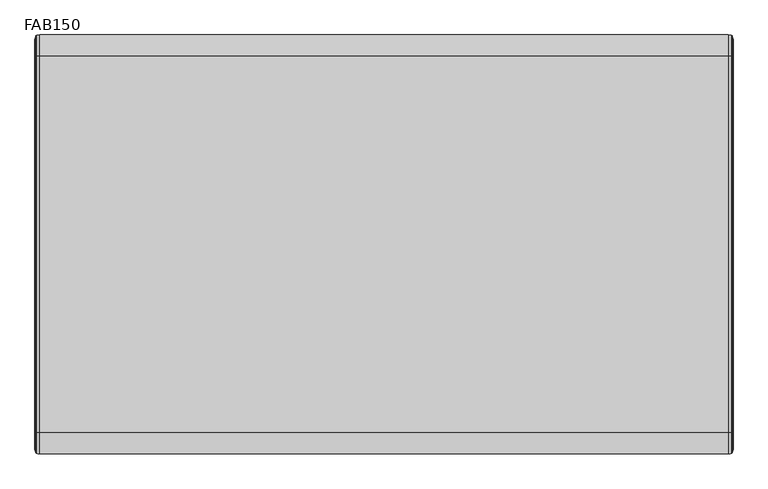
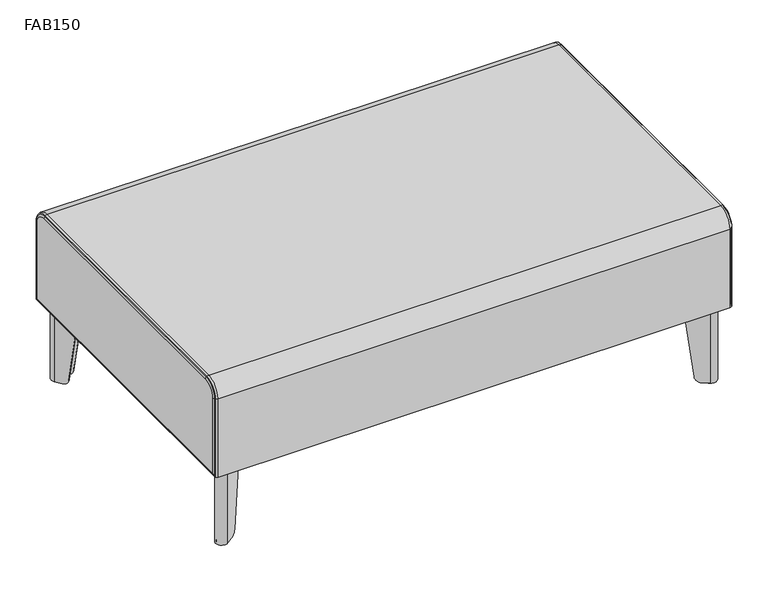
"""IFC4 building model written with IfcOpenShell, lengths in millimetres: furniture geometry, Stance_HC-Flora-Bench_Straight : FAB150."""

from ifc_helpers import new_model, si_unit, point, frame, frame_2d, origin, origin_with_axes, place, context, project, spatial, polyline, circle_curve, ellipse_curve, trimmed, segment, composite_curve, outline, extrude, source, transform, mapped, element, save
from ifc_brep_helpers import plane_surface, cylinder_surface, revolved_surface, advanced_brep


def fab150_d09243b9(model_context):
    return source(origin(), model_context, "Body", "SolidModel", [
        extrude(outline(composite_curve([segment(polyline([(1214.1692791, -32.5186459), (1227.4741789, -23.2024186)]), True, "CONTINUOUS"), segment(trimmed(circle_curve(frame_2d((1234.1246983, -32.7003078)), 11.5947965), [point((1227.4741789, -23.2024186))], [point((1243.6225874, -39.3508272))], False, "CARTESIAN"), True, "CONTINUOUS"), segment(polyline([(1243.6225874, -39.3508272), (1234.3063601, -52.6557269), (1214.1692791, -32.5186459)]), True, "CONTINUOUS")], self_intersect=False)), frame((0.0, 0.0, 3.175), z_axis=(0.0, 0.0, 1.0), x_axis=(1.0, 0.0, 0.0)), (0.0, 0.0, 1.0), 3.3792927),
        advanced_brep(
        [(1214.3314582, -86.7866368, 193.6877233), (1246.2555647, -41.1944649, 193.6877233), (1225.6305412, -20.5694413, 193.6877233), (1180.0383719, -52.4935459, 193.6877233), (1181.8820096, -55.1265233, 193.6877233), (1227.4741789, -23.2024186, 193.6877233), (1243.6225874, -39.3508272, 193.6877233), (1211.6984809, -84.9429991, 193.6877233), (1214.3314582, -86.7866368, 189.1419595), (1243.6225874, -39.3508272, 3.1876992), (1233.5018779, -53.8046422, 3.1876992), (1224.3247818, -66.9108427, 17.1280233), (1227.4741789, -23.2024186, 3.1876992), (1199.9141633, -42.5002243, 17.1280233), (1213.0203639, -33.3231282, 3.1876992), (1180.0383719, -52.4935459, 189.1419334), (1225.6305412, -20.5694413, 3.1876992), (1210.7124662, -31.0152305, 3.1876992), (1197.6062656, -40.1923266, 17.1280233), (1246.2555647, -41.1944649, 3.1876992), (1226.6326795, -69.2187405, 17.1280233), (1235.8097756, -56.1125399, 3.1876992)],
        [
            (0, 1),
            (1, 2, circle_curve(frame((1234.1246983, -32.7003078, 193.6877233), z_axis=(0.0, 0.0, 1.0), x_axis=(-1.0, 0.0, 0.0)), 14.8090724)),
            (2, 3),
            (3, 4),
            (4, 5),
            (5, 6, circle_curve(frame((1234.1246983, -32.7003078, 193.6877233), z_axis=(0.0, 0.0, -1.0), x_axis=(-1.0, 0.0, 0.0)), 11.5947965)),
            (6, 7),
            (7, 0),
            (7, 8),
            (8, 0),
            (6, 9),
            (9, 10),
            (10, 11, ellipse_curve(frame((1233.5018779, -53.8046422, 19.0626992), z_axis=(-0.8191509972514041, 0.5735779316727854, 0.0), x_axis=(-0.5735779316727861, -0.8191509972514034, 0.0)), 16.1198923, 15.875)),
            (11, 7),
            (5, 12),
            (12, 9, circle_curve(frame((1234.1246983, -32.7003078, 3.1876992), z_axis=(0.0, 0.0, -1.0), x_axis=(-1.0, 0.0, 0.0)), 11.5947965)),
            (4, 13),
            (13, 14, ellipse_curve(frame((1213.0203639, -33.3231282, 19.0626992), z_axis=(0.5735779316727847, -0.8191509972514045, 0.0), x_axis=(0.8191509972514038, 0.5735779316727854, 0.0)), 16.1198923, 15.875)),
            (14, 12),
            (3, 15),
            (15, 4),
            (2, 16),
            (16, 17),
            (17, 18, ellipse_curve(frame((1210.7124662, -31.0152305, 19.0626992), z_axis=(-0.5735779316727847, 0.8191509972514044, 0.0), x_axis=(0.8191509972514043, 0.573577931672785, 0.0)), 16.1198923, 15.875)),
            (18, 15),
            (1, 19),
            (19, 16, circle_curve(frame((1234.1246983, -32.7003078, 3.1876992), z_axis=(0.0, 0.0, 1.0), x_axis=(-1.0, 0.0, 0.0)), 14.8090724)),
            (8, 20),
            (20, 21, ellipse_curve(frame((1235.8097756, -56.1125399, 19.0626992), z_axis=(0.8191509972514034, -0.5735779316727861, 0.0), x_axis=(-0.5735779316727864, -0.8191509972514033, 0.0)), 16.1198923, 15.875)),
            (21, 19),
            (18, 13),
            (11, 20),
            (21, 10),
            (14, 17),
        ],
        [
            plane_surface(frame((1211.6984809, -84.9429991, 193.6877233), z_axis=(0.0, 0.0, 1.0000000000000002), x_axis=(-0.8191509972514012, 0.5735779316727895, 0.0))),
            plane_surface(frame((1214.3314582, -86.7866368, 193.6877233), z_axis=(-0.5735779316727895, -0.8191509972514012, 0.0), x_axis=(0.0, 0.0, -1.0))),
            plane_surface(frame((1211.6984809, -84.9429991, 193.6877233), z_axis=(-0.8191509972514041, 0.5735779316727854, 0.0), x_axis=(0.0, 0.0, -1.0))),
            revolved_surface(polyline([(1222.5299018, -32.7003078, 3.1876992), (1222.5299018, -32.7003078, 193.6877233)]), (1234.1246983, -32.7003078, 0.0), (0.0, 0.0, -1.0)),
            plane_surface(frame((1227.4741789, -23.2024186, 193.6877233), z_axis=(0.5735779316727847, -0.8191509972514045, 0.0), x_axis=(0.0, 0.0, -1.0))),
            plane_surface(frame((1181.8820096, -55.1265233, 193.6877233), z_axis=(-0.8191509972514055, -0.5735779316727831, 0.0), x_axis=(0.0, 0.0, -1.0))),
            plane_surface(frame((1180.0383719, -52.4935459, 193.6877233), z_axis=(-0.5735779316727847, 0.8191509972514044, 0.0), x_axis=(0.0, 0.0, -1.0))),
            cylinder_surface(frame((1234.1246983, -32.7003078, 0.0), z_axis=(0.0, 0.0, 1.0), x_axis=(-1.0, 0.0, 0.0)), 14.8090724),
            plane_surface(frame((1246.2555647, -41.1944649, 193.6877233), z_axis=(0.8191509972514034, -0.5735779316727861, 0.0), x_axis=(0.0, 0.0, -1.0))),
            plane_surface(frame((1191.7224625, -34.3085234, 17.1280233), z_axis=(-0.7018361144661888, -0.7018361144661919, -0.12186934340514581), x_axis=(0.7071067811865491, -0.707106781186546, 0.0))),
            plane_surface(frame((1224.212818, -1.818168, 3.1876992), z_axis=(0.0, 0.0, -1.0), x_axis=(0.707106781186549, -0.707106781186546, 0.0))),
            cylinder_surface(frame((1243.6497538, -63.9525182, 19.0626992), z_axis=(0.7071067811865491, -0.707106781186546, 0.0), x_axis=(-0.707106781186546, -0.7071067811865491, 0.0)), 15.875),
        ],
        [
            (0, [[1, 2, 3, 4, 5, 6, 7, 8]]),
            (1, [[9, 10, -8]]),
            (2, [[11, 12, 13, 14, -7]]),
            (3, [[15, 16, -11, -6]]),
            (4, [[17, 18, 19, -15, -5]]),
            (5, [[20, 21, -4]]),
            (6, [[22, 23, 24, 25, -20, -3]]),
            (7, [[26, 27, -22, -2]]),
            (8, [[-10, 28, 29, 30, -26, -1]]),
            (9, [[-17, -21, -25, 31]]),
            (9, [[-28, -9, -14, 32]]),
            (10, [[-23, -27, -30, 33, -12, -16, -19, 34]]),
            (11, [[-13, -33, -29, -32]]),
            (11, [[-24, -34, -18, -31]]),
        ],
    ),
        extrude(outline(composite_curve([segment(trimmed(circle_curve(frame_2d((1232.0913541, -34.7252749)), 11.1125), [point((1243.2038541, -34.7252749))], [point((1220.9788541, -34.7252749))], False, "CARTESIAN"), True, "CONTINUOUS"), segment(trimmed(circle_curve(frame_2d((1232.0913541, -34.7252749)), 11.1125), [point((1220.9788541, -34.7252749))], [point((1243.2038541, -34.7252749))], False, "CARTESIAN"), True, "CONTINUOUS")], self_intersect=False)), origin_with_axes(), (0.0, 0.0, 1.0), 3.175),
        extrude(outline(composite_curve([segment(trimmed(circle_curve(frame_2d((1235.4438064, -31.3811988)), 15.8749964), [point((1234.3364228, -15.5448732))], [point((1251.2801321, -32.4885822))], False, "CARTESIAN"), True, "CONTINUOUS"), segment(polyline([(1251.2801321, -32.4885822), (1244.2831602, -132.5499778), (1214.4327865, -162.4003462), (1130.4896864, -136.3353271), (1104.4246518, -52.3922188), (1134.2750239, -22.5418467), (1234.3364228, -15.5448732)]), True, "CONTINUOUS")], self_intersect=False)), frame((0.0, 0.0, 193.6877233), z_axis=(0.0, 0.0, 1.0), x_axis=(1.0, 0.0, 0.0)), (0.0, 0.0, 1.0), 4.7751809),
        extrude(outline(composite_curve([segment(polyline([(1214.1692791, -729.4814086), (1234.3063601, -709.3443276), (1243.6225874, -722.6492273)]), True, "CONTINUOUS"), segment(trimmed(circle_curve(frame_2d((1234.1246983, -729.2997467)), 11.5947965), [point((1243.6225874, -722.6492273))], [point((1227.4741789, -738.7976359))], False, "CARTESIAN"), True, "CONTINUOUS"), segment(polyline([(1227.4741789, -738.7976359), (1214.1692791, -729.4814086)]), True, "CONTINUOUS")], self_intersect=False)), frame((0.0, 0.0, 3.175), z_axis=(0.0, 0.0, 1.0), x_axis=(1.0, 0.0, 0.0)), (0.0, 0.0, 1.0), 3.3792927),
        advanced_brep(
        [(1214.3314582, -675.2134177, 193.6877233), (1211.6984809, -677.0570554, 193.6877233), (1243.6225874, -722.6492273, 193.6877233), (1227.4741789, -738.7976359, 193.6877233), (1181.8820096, -706.8735312, 193.6877233), (1180.0383719, -709.5065086, 193.6877233), (1225.6305412, -741.4306132, 193.6877233), (1246.2555647, -720.8055896, 193.6877233), (1214.3314582, -675.2134177, 189.1419595), (1224.3247818, -695.0892118, 17.1280233), (1233.5018779, -708.1954123, 3.1876992), (1243.6225874, -722.6492273, 3.1876992), (1227.4741789, -738.7976359, 3.1876992), (1213.0203639, -728.6769263, 3.1876992), (1199.9141633, -719.4998302, 17.1280233), (1180.0383719, -709.5065086, 189.1419334), (1197.6062656, -721.8077279, 17.1280233), (1210.7124662, -730.984824, 3.1876992), (1225.6305412, -741.4306132, 3.1876992), (1246.2555647, -720.8055896, 3.1876992), (1235.8097756, -705.8875146, 3.1876992), (1226.6326795, -692.781314, 17.1280233)],
        [
            (0, 1),
            (1, 2),
            (2, 3, circle_curve(frame((1234.1246983, -729.2997467, 193.6877233), z_axis=(0.0, 0.0, -1.0), x_axis=(-1.0, 0.0, 0.0)), 11.5947965)),
            (3, 4),
            (4, 5),
            (5, 6),
            (6, 7, circle_curve(frame((1234.1246983, -729.2997467, 193.6877233), z_axis=(0.0, 0.0, 1.0), x_axis=(-1.0, 0.0, 0.0)), 14.8090724)),
            (7, 0),
            (0, 8),
            (8, 1),
            (1, 9),
            (9, 10, ellipse_curve(frame((1233.5018779, -708.1954123, 19.0626992), z_axis=(-0.8191509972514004, -0.5735779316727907, 0.0), x_axis=(-0.5735779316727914, 0.8191509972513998, 0.0)), 16.1198923, 15.875)),
            (10, 11),
            (11, 2),
            (11, 12, circle_curve(frame((1234.1246983, -729.2997467, 3.1876992), z_axis=(0.0, 0.0, -1.0), x_axis=(-1.0, 0.0, 0.0)), 11.5947965)),
            (12, 3),
            (12, 13),
            (13, 14, ellipse_curve(frame((1213.0203639, -728.6769263, 19.0626992), z_axis=(0.5735779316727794, 0.8191509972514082, 0.0), x_axis=(0.8191509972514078, -0.5735779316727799, 0.0)), 16.1198923, 15.875)),
            (14, 4),
            (4, 15),
            (15, 5),
            (15, 16),
            (16, 17, ellipse_curve(frame((1210.7124662, -730.984824, 19.0626992), z_axis=(-0.5735779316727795, -0.8191509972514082, 0.0), x_axis=(0.8191509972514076, -0.5735779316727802, 0.0)), 16.1198923, 15.875)),
            (17, 18),
            (18, 6),
            (18, 19, circle_curve(frame((1234.1246983, -729.2997467, 3.1876992), z_axis=(0.0, 0.0, 1.0), x_axis=(-1.0, 0.0, 0.0)), 14.8090724)),
            (19, 7),
            (19, 20),
            (20, 21, ellipse_curve(frame((1235.8097756, -705.8875146, 19.0626992), z_axis=(0.8191509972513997, 0.5735779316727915, 0.0), x_axis=(-0.573577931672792, 0.8191509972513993, 0.0)), 16.1198923, 15.875)),
            (21, 8),
            (14, 16),
            (21, 9),
            (17, 13),
            (10, 20),
        ],
        [
            plane_surface(frame((1211.6984809, -677.0570554, 193.6877233), z_axis=(0.0, 0.0, 0.9999999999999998), x_axis=(-0.8191509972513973, -0.5735779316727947, 0.0))),
            plane_surface(frame((1214.3314582, -675.2134177, 193.6877233), z_axis=(-0.5735779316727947, 0.8191509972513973, 0.0), x_axis=(0.0, 0.0, -1.0))),
            plane_surface(frame((1211.6984809, -677.0570554, 193.6877233), z_axis=(-0.8191509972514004, -0.5735779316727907, 0.0), x_axis=(0.0, 0.0, -1.0))),
            revolved_surface(polyline([(1222.5299018, -729.2997467, 3.1876992), (1222.5299018, -729.2997467, 193.6877233)]), (1234.1246983, -729.2997467, 0.0), (0.0, 0.0, -1.0)),
            plane_surface(frame((1227.4741789, -738.7976359, 193.6877233), z_axis=(0.5735779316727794, 0.8191509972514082, 0.0), x_axis=(0.0, 0.0, -1.0))),
            plane_surface(frame((1181.8820096, -706.8735312, 193.6877233), z_axis=(-0.8191509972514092, 0.5735779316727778, 0.0), x_axis=(0.0, 0.0, -1.0))),
            plane_surface(frame((1180.0383719, -709.5065086, 193.6877233), z_axis=(-0.5735779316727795, -0.8191509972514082, 0.0), x_axis=(0.0, 0.0, -1.0))),
            cylinder_surface(frame((1234.1246983, -729.2997467, 0.0), z_axis=(0.0, 0.0, 1.0), x_axis=(-1.0, 0.0, 0.0)), 14.8090724),
            plane_surface(frame((1246.2555647, -720.8055896, 193.6877233), z_axis=(0.8191509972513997, 0.5735779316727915, 0.0), x_axis=(0.0, 0.0, -1.0))),
            plane_surface(frame((1191.7224625, -727.6915311, 17.1280233), z_axis=(-0.7018361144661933, 0.7018361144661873, -0.12186934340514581), x_axis=(0.7071067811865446, 0.7071067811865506, 0.0))),
            plane_surface(frame((1224.212818, -760.1818865, 3.1876992), z_axis=(0.0, 0.0, -1.0), x_axis=(0.7071067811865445, 0.7071067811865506, 0.0))),
            cylinder_surface(frame((1243.6497538, -698.0475363, 19.0626992), z_axis=(0.7071067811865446, 0.7071067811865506, 0.0), x_axis=(-0.7071067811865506, 0.7071067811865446, 0.0)), 15.875),
        ],
        [
            (0, [[1, 2, 3, 4, 5, 6, 7, 8]]),
            (1, [[-1, 9, 10]]),
            (2, [[-2, 11, 12, 13, 14]]),
            (3, [[-3, -14, 15, 16]]),
            (4, [[-4, -16, 17, 18, 19]]),
            (5, [[-5, 20, 21]]),
            (6, [[-6, -21, 22, 23, 24, 25]]),
            (7, [[-7, -25, 26, 27]]),
            (8, [[-8, -27, 28, 29, 30, -9]]),
            (9, [[31, -22, -20, -19]]),
            (9, [[32, -11, -10, -30]]),
            (10, [[33, -17, -15, -13, 34, -28, -26, -24]]),
            (11, [[-31, -18, -33, -23]]),
            (11, [[-32, -29, -34, -12]]),
        ],
    ),
        extrude(outline(composite_curve([segment(trimmed(circle_curve(frame_2d((1232.0913541, -727.2747796)), 11.1125), [point((1243.2038541, -727.2747796))], [point((1220.9788541, -727.2747796))], False, "CARTESIAN"), True, "CONTINUOUS"), segment(trimmed(circle_curve(frame_2d((1232.0913541, -727.2747796)), 11.1125), [point((1220.9788541, -727.2747796))], [point((1243.2038541, -727.2747796))], False, "CARTESIAN"), True, "CONTINUOUS")], self_intersect=False)), origin_with_axes(), (0.0, 0.0, 1.0), 3.175),
        extrude(outline(composite_curve([segment(polyline([(1234.3364228, -746.4551813), (1134.2750239, -739.4582078), (1104.4246518, -709.6078357), (1130.4896864, -625.6647274), (1214.4327865, -599.5997083), (1244.2831602, -629.4500767), (1251.2801321, -729.5114723)]), True, "CONTINUOUS"), segment(trimmed(circle_curve(frame_2d((1235.4438064, -730.6188557)), 15.8749964), [point((1251.2801321, -729.5114723))], [point((1234.3364228, -746.4551813))], False, "CARTESIAN"), True, "CONTINUOUS")], self_intersect=False)), frame((0.0, 0.0, 193.6877233), z_axis=(0.0, 0.0, 1.0), x_axis=(1.0, 0.0, 0.0)), (0.0, 0.0, 1.0), 4.7751809),
        extrude(outline(composite_curve([segment(polyline([(55.8307262, -729.4814086), (42.5258264, -738.7976359)]), True, "CONTINUOUS"), segment(trimmed(circle_curve(frame_2d((35.875307, -729.2997467)), 11.5947965), [point((42.5258264, -738.7976359))], [point((26.3774179, -722.6492273))], False, "CARTESIAN"), True, "CONTINUOUS"), segment(polyline([(26.3774179, -722.6492273), (35.6936452, -709.3443276), (55.8307262, -729.4814086)]), True, "CONTINUOUS")], self_intersect=False)), frame((0.0, 0.0, 3.175), z_axis=(0.0, 0.0, 1.0), x_axis=(1.0, 0.0, 0.0)), (0.0, 0.0, 1.0), 3.3792927),
        advanced_brep(
        [(55.6685471, -675.2134177, 193.6877233), (23.7444406, -720.8055896, 193.6877233), (44.3694641, -741.4306132, 193.6877233), (89.9616334, -709.5065086, 193.6877233), (88.1179957, -706.8735312, 193.6877233), (42.5258264, -738.7976359, 193.6877233), (26.3774179, -722.6492273, 193.6877233), (58.3015244, -677.0570554, 193.6877233), (55.6685471, -675.2134177, 189.1419595), (26.3774179, -722.6492273, 3.1876992), (36.4981274, -708.1954123, 3.1876992), (45.6752235, -695.0892118, 17.1280233), (42.5258264, -738.7976359, 3.1876992), (70.085842, -719.4998302, 17.1280233), (56.9796414, -728.6769263, 3.1876992), (89.9616334, -709.5065086, 189.1419334), (44.3694641, -741.4306132, 3.1876992), (59.2875391, -730.984824, 3.1876992), (72.3937397, -721.8077279, 17.1280233), (23.7444406, -720.8055896, 3.1876992), (43.3673258, -692.781314, 17.1280233), (34.1902297, -705.8875146, 3.1876992)],
        [
            (0, 1),
            (1, 2, circle_curve(frame((35.875307, -729.2997467, 193.6877233), z_axis=(0.0, 0.0, 1.0), x_axis=(1.0, 0.0, 0.0)), 14.8090724)),
            (2, 3),
            (3, 4),
            (4, 5),
            (5, 6, circle_curve(frame((35.875307, -729.2997467, 193.6877233), z_axis=(0.0, 0.0, -1.0), x_axis=(1.0, 0.0, 0.0)), 11.5947965)),
            (6, 7),
            (7, 0),
            (7, 8),
            (8, 0),
            (6, 9),
            (9, 10),
            (10, 11, ellipse_curve(frame((36.4981274, -708.1954123, 19.0626992), z_axis=(0.8191509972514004, -0.5735779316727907, 0.0), x_axis=(0.5735779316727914, 0.8191509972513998, 0.0)), 16.1198923, 15.875)),
            (11, 7),
            (5, 12),
            (12, 9, circle_curve(frame((35.875307, -729.2997467, 3.1876992), z_axis=(0.0, 0.0, -1.0), x_axis=(1.0, 0.0, 0.0)), 11.5947965)),
            (4, 13),
            (13, 14, ellipse_curve(frame((56.9796414, -728.6769263, 19.0626992), z_axis=(-0.5735779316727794, 0.8191509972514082, 0.0), x_axis=(-0.8191509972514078, -0.5735779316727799, 0.0)), 16.1198923, 15.875)),
            (14, 12),
            (3, 15),
            (15, 4),
            (2, 16),
            (16, 17),
            (17, 18, ellipse_curve(frame((59.2875391, -730.984824, 19.0626992), z_axis=(0.5735779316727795, -0.8191509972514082, 0.0), x_axis=(-0.8191509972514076, -0.5735779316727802, 0.0)), 16.1198923, 15.875)),
            (18, 15),
            (1, 19),
            (19, 16, circle_curve(frame((35.875307, -729.2997467, 3.1876992), z_axis=(0.0, 0.0, 1.0), x_axis=(1.0, 0.0, 0.0)), 14.8090724)),
            (8, 20),
            (20, 21, ellipse_curve(frame((34.1902297, -705.8875146, 19.0626992), z_axis=(-0.8191509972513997, 0.5735779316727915, 0.0), x_axis=(0.573577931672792, 0.8191509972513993, 0.0)), 16.1198923, 15.875)),
            (21, 19),
            (18, 13),
            (11, 20),
            (21, 10),
            (14, 17),
        ],
        [
            plane_surface(frame((58.3015244, -677.0570554, 193.6877233), z_axis=(0.0, 0.0, 0.9999999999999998), x_axis=(0.8191509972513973, -0.5735779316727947, 0.0))),
            plane_surface(frame((55.6685471, -675.2134177, 193.6877233), z_axis=(0.5735779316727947, 0.8191509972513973, 0.0), x_axis=(0.0, 0.0, -1.0))),
            plane_surface(frame((58.3015244, -677.0570554, 193.6877233), z_axis=(0.8191509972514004, -0.5735779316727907, 0.0), x_axis=(0.0, 0.0, -1.0))),
            revolved_surface(polyline([(47.4701035, -729.2997467, 3.1876992), (47.4701035, -729.2997467, 193.6877233)]), (35.875307, -729.2997467, 0.0), (0.0, 0.0, -1.0)),
            plane_surface(frame((42.5258264, -738.7976359, 193.6877233), z_axis=(-0.5735779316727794, 0.8191509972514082, 0.0), x_axis=(0.0, 0.0, -1.0))),
            plane_surface(frame((88.1179957, -706.8735312, 193.6877233), z_axis=(0.8191509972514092, 0.5735779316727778, 0.0), x_axis=(0.0, 0.0, -1.0))),
            plane_surface(frame((89.9616334, -709.5065086, 193.6877233), z_axis=(0.5735779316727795, -0.8191509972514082, 0.0), x_axis=(0.0, 0.0, -1.0))),
            cylinder_surface(frame((35.875307, -729.2997467, 0.0), z_axis=(0.0, 0.0, 1.0), x_axis=(1.0, 0.0, 0.0)), 14.8090724),
            plane_surface(frame((23.7444406, -720.8055896, 193.6877233), z_axis=(-0.8191509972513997, 0.5735779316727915, 0.0), x_axis=(0.0, 0.0, -1.0))),
            plane_surface(frame((78.2775428, -727.6915311, 17.1280233), z_axis=(0.7018361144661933, 0.7018361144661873, -0.12186934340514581), x_axis=(-0.7071067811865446, 0.7071067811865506, 0.0))),
            plane_surface(frame((45.7871873, -760.1818865, 3.1876992), z_axis=(0.0, 0.0, -1.0), x_axis=(-0.7071067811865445, 0.7071067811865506, 0.0))),
            cylinder_surface(frame((26.3502515, -698.0475363, 19.0626992), z_axis=(-0.7071067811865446, 0.7071067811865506, 0.0), x_axis=(0.7071067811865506, 0.7071067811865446, 0.0)), 15.875),
        ],
        [
            (0, [[1, 2, 3, 4, 5, 6, 7, 8]]),
            (1, [[9, 10, -8]]),
            (2, [[11, 12, 13, 14, -7]]),
            (3, [[15, 16, -11, -6]]),
            (4, [[17, 18, 19, -15, -5]]),
            (5, [[20, 21, -4]]),
            (6, [[22, 23, 24, 25, -20, -3]]),
            (7, [[26, 27, -22, -2]]),
            (8, [[-10, 28, 29, 30, -26, -1]]),
            (9, [[-17, -21, -25, 31]]),
            (9, [[-28, -9, -14, 32]]),
            (10, [[-23, -27, -30, 33, -12, -16, -19, 34]]),
            (11, [[-13, -33, -29, -32]]),
            (11, [[-24, -34, -18, -31]]),
        ],
    ),
        extrude(outline(composite_curve([segment(trimmed(circle_curve(frame_2d((37.9086512, -727.2747796)), 11.1125), [point((26.7961512, -727.2747796))], [point((49.0211512, -727.2747796))], False, "CARTESIAN"), True, "CONTINUOUS"), segment(trimmed(circle_curve(frame_2d((37.9086512, -727.2747796)), 11.1125), [point((49.0211512, -727.2747796))], [point((26.7961512, -727.2747796))], False, "CARTESIAN"), True, "CONTINUOUS")], self_intersect=False)), origin_with_axes(), (0.0, 0.0, 1.0), 3.175),
        extrude(outline(composite_curve([segment(trimmed(circle_curve(frame_2d((34.5561989, -730.6188557)), 15.8749964), [point((35.6635825, -746.4551813))], [point((18.7198732, -729.5114723))], False, "CARTESIAN"), True, "CONTINUOUS"), segment(polyline([(18.7198732, -729.5114723), (25.7168451, -629.4500767), (55.5672188, -599.5997083), (139.5103189, -625.6647274), (165.5753535, -709.6078357), (135.7249814, -739.4582078), (35.6635825, -746.4551813)]), True, "CONTINUOUS")], self_intersect=False)), frame((0.0, 0.0, 193.6877233), z_axis=(0.0, 0.0, 1.0), x_axis=(1.0, 0.0, 0.0)), (0.0, 0.0, 1.0), 4.7751809),
        extrude(outline(composite_curve([segment(polyline([(55.8307262, -32.5186459), (35.6936452, -52.6557269), (26.3774179, -39.3508272)]), True, "CONTINUOUS"), segment(trimmed(circle_curve(frame_2d((35.875307, -32.7003078)), 11.5947965), [point((26.3774179, -39.3508272))], [point((42.5258264, -23.2024186))], False, "CARTESIAN"), True, "CONTINUOUS"), segment(polyline([(42.5258264, -23.2024186), (55.8307262, -32.5186459)]), True, "CONTINUOUS")], self_intersect=False)), frame((0.0, 0.0, 3.175), z_axis=(0.0, 0.0, 1.0), x_axis=(1.0, 0.0, 0.0)), (0.0, 0.0, 1.0), 3.3792927),
        advanced_brep(
        [(55.6685471, -86.7866368, 193.6877233), (58.3015244, -84.9429991, 193.6877233), (26.3774179, -39.3508272, 193.6877233), (42.5258264, -23.2024186, 193.6877233), (88.1179957, -55.1265233, 193.6877233), (89.9616334, -52.4935459, 193.6877233), (44.3694641, -20.5694413, 193.6877233), (23.7444406, -41.1944649, 193.6877233), (55.6685471, -86.7866368, 189.1419595), (45.6752235, -66.9108427, 17.1280233), (36.4981274, -53.8046422, 3.1876992), (26.3774179, -39.3508272, 3.1876992), (42.5258264, -23.2024186, 3.1876992), (56.9796414, -33.3231282, 3.1876992), (70.085842, -42.5002243, 17.1280233), (89.9616334, -52.4935459, 189.1419334), (72.3937397, -40.1923266, 17.1280233), (59.2875391, -31.0152305, 3.1876992), (44.3694641, -20.5694413, 3.1876992), (23.7444406, -41.1944649, 3.1876992), (34.1902297, -56.1125399, 3.1876992), (43.3673258, -69.2187405, 17.1280233)],
        [
            (0, 1),
            (1, 2),
            (2, 3, circle_curve(frame((35.875307, -32.7003078, 193.6877233), z_axis=(0.0, 0.0, -1.0), x_axis=(1.0, 0.0, 0.0)), 11.5947965)),
            (3, 4),
            (4, 5),
            (5, 6),
            (6, 7, circle_curve(frame((35.875307, -32.7003078, 193.6877233), z_axis=(0.0, 0.0, 1.0), x_axis=(1.0, 0.0, 0.0)), 14.8090724)),
            (7, 0),
            (0, 8),
            (8, 1),
            (1, 9),
            (9, 10, ellipse_curve(frame((36.4981274, -53.8046422, 19.0626992), z_axis=(0.8191509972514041, 0.5735779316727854, 0.0), x_axis=(0.5735779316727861, -0.8191509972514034, 0.0)), 16.1198923, 15.875)),
            (10, 11),
            (11, 2),
            (11, 12, circle_curve(frame((35.875307, -32.7003078, 3.1876992), z_axis=(0.0, 0.0, -1.0), x_axis=(1.0, 0.0, 0.0)), 11.5947965)),
            (12, 3),
            (12, 13),
            (13, 14, ellipse_curve(frame((56.9796414, -33.3231282, 19.0626992), z_axis=(-0.5735779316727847, -0.8191509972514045, 0.0), x_axis=(-0.8191509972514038, 0.5735779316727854, 0.0)), 16.1198923, 15.875)),
            (14, 4),
            (4, 15),
            (15, 5),
            (15, 16),
            (16, 17, ellipse_curve(frame((59.2875391, -31.0152305, 19.0626992), z_axis=(0.5735779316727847, 0.8191509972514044, 0.0), x_axis=(-0.8191509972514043, 0.573577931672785, 0.0)), 16.1198923, 15.875)),
            (17, 18),
            (18, 6),
            (18, 19, circle_curve(frame((35.875307, -32.7003078, 3.1876992), z_axis=(0.0, 0.0, 1.0), x_axis=(1.0, 0.0, 0.0)), 14.8090724)),
            (19, 7),
            (19, 20),
            (20, 21, ellipse_curve(frame((34.1902297, -56.1125399, 19.0626992), z_axis=(-0.8191509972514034, -0.5735779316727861, 0.0), x_axis=(0.5735779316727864, -0.8191509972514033, 0.0)), 16.1198923, 15.875)),
            (21, 8),
            (14, 16),
            (21, 9),
            (17, 13),
            (10, 20),
        ],
        [
            plane_surface(frame((58.3015244, -84.9429991, 193.6877233), z_axis=(0.0, 0.0, 1.0000000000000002), x_axis=(0.8191509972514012, 0.5735779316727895, 0.0))),
            plane_surface(frame((55.6685471, -86.7866368, 193.6877233), z_axis=(0.5735779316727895, -0.8191509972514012, 0.0), x_axis=(0.0, 0.0, -1.0))),
            plane_surface(frame((58.3015244, -84.9429991, 193.6877233), z_axis=(0.8191509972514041, 0.5735779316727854, 0.0), x_axis=(0.0, 0.0, -1.0))),
            revolved_surface(polyline([(47.4701035, -32.7003078, 3.1876992), (47.4701035, -32.7003078, 193.6877233)]), (35.875307, -32.7003078, 0.0), (0.0, 0.0, -1.0)),
            plane_surface(frame((42.5258264, -23.2024186, 193.6877233), z_axis=(-0.5735779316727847, -0.8191509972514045, 0.0), x_axis=(0.0, 0.0, -1.0))),
            plane_surface(frame((88.1179957, -55.1265233, 193.6877233), z_axis=(0.8191509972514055, -0.5735779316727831, 0.0), x_axis=(0.0, 0.0, -1.0))),
            plane_surface(frame((89.9616334, -52.4935459, 193.6877233), z_axis=(0.5735779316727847, 0.8191509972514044, 0.0), x_axis=(0.0, 0.0, -1.0))),
            cylinder_surface(frame((35.875307, -32.7003078, 0.0), z_axis=(0.0, 0.0, 1.0), x_axis=(1.0, 0.0, 0.0)), 14.8090724),
            plane_surface(frame((23.7444406, -41.1944649, 193.6877233), z_axis=(-0.8191509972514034, -0.5735779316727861, 0.0), x_axis=(0.0, 0.0, -1.0))),
            plane_surface(frame((78.2775428, -34.3085234, 17.1280233), z_axis=(0.7018361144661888, -0.7018361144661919, -0.12186934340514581), x_axis=(-0.7071067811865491, -0.707106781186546, 0.0))),
            plane_surface(frame((45.7871873, -1.818168, 3.1876992), z_axis=(0.0, 0.0, -1.0), x_axis=(-0.707106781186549, -0.707106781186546, 0.0))),
            cylinder_surface(frame((26.3502515, -63.9525182, 19.0626992), z_axis=(-0.7071067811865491, -0.707106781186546, 0.0), x_axis=(0.707106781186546, -0.7071067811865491, 0.0)), 15.875),
        ],
        [
            (0, [[1, 2, 3, 4, 5, 6, 7, 8]]),
            (1, [[-1, 9, 10]]),
            (2, [[-2, 11, 12, 13, 14]]),
            (3, [[-3, -14, 15, 16]]),
            (4, [[-4, -16, 17, 18, 19]]),
            (5, [[-5, 20, 21]]),
            (6, [[-6, -21, 22, 23, 24, 25]]),
            (7, [[-7, -25, 26, 27]]),
            (8, [[-8, -27, 28, 29, 30, -9]]),
            (9, [[31, -22, -20, -19]]),
            (9, [[32, -11, -10, -30]]),
            (10, [[33, -17, -15, -13, 34, -28, -26, -24]]),
            (11, [[-31, -18, -33, -23]]),
            (11, [[-32, -29, -34, -12]]),
        ],
    ),
        extrude(outline(composite_curve([segment(trimmed(circle_curve(frame_2d((37.9086512, -34.7252749)), 11.1125), [point((26.7961512, -34.7252749))], [point((49.0211512, -34.7252749))], False, "CARTESIAN"), True, "CONTINUOUS"), segment(trimmed(circle_curve(frame_2d((37.9086512, -34.7252749)), 11.1125), [point((49.0211512, -34.7252749))], [point((26.7961512, -34.7252749))], False, "CARTESIAN"), True, "CONTINUOUS")], self_intersect=False)), origin_with_axes(), (0.0, 0.0, 1.0), 3.175),
        extrude(outline(composite_curve([segment(polyline([(35.6635825, -15.5448732), (135.7249814, -22.5418467), (165.5753535, -52.3922188), (139.5103189, -136.3353271), (55.5672188, -162.4003462), (25.7168451, -132.5499778), (18.7198732, -32.4885822)]), True, "CONTINUOUS"), segment(trimmed(circle_curve(frame_2d((34.5561989, -31.3811988)), 15.8749964), [point((18.7198732, -32.4885822))], [point((35.6635825, -15.5448732))], False, "CARTESIAN"), True, "CONTINUOUS")], self_intersect=False)), frame((0.0, 0.0, 193.6877233), z_axis=(0.0, 0.0, 1.0), x_axis=(1.0, 0.0, 0.0)), (0.0, 0.0, 1.0), 4.7751809),
        advanced_brep(
        [(1270.0, -723.9, 431.00625), (1270.0, -753.26875, 401.6375), (1270.0, -753.26875, 207.1687439), (1270.0, -8.73125, 207.1687439), (1270.0, -8.73125, 401.6375), (1270.0, -38.1, 431.00625), (0.0, -753.26875, 401.6375), (0.0, -723.9, 431.00625), (0.0, -38.1, 431.00625), (0.0, -8.73125, 401.6375), (0.0, -8.73125, 207.1687439), (0.0, -753.26875, 207.1687439), (1261.5158065, -762.0, 401.6375), (1261.5158065, -723.9, 439.7375), (8.4841935, -723.9, 439.7375), (8.4841935, -762.0, 401.6375), (8.4841935, -762.0, 198.4374939), (1261.5158065, -762.0, 198.4374939), (8.4841935, 0.0, 198.4374939), (1261.5158065, 0.0, 198.4374939), (8.4841935, 0.0, 401.6375), (1261.5158065, 0.0, 401.6375), (8.4841935, -38.1, 439.7375), (1261.5158065, -38.1, 439.7375), (2.6434528, -758.9617195, 401.6375), (2.6434528, -723.9, 436.6992195), (2.5810757, -760.8954092, 401.6375), (2.5810757, -723.9, 438.6329092), (2.6434528, -758.9617195, 201.4757744), (2.5810757, -760.8954092, 199.5420847), (2.6434528, -3.0382805, 201.4757744), (2.5810757, -1.1045908, 199.5420847), (2.6434528, -3.0382805, 401.6375), (2.5810757, -1.1045908, 401.6375), (2.6434528, -38.1, 436.6992195), (2.5810757, -38.1, 438.6329092), (1267.4189243, -760.8954092, 401.6375), (1267.4189243, -723.9, 438.6329092), (1267.3565472, -758.9617195, 401.6375), (1267.3565472, -723.9, 436.6992195), (1267.4189243, -760.8954092, 199.5420847), (1267.3565472, -758.9617195, 201.4757744), (1267.4189243, -1.1045908, 199.5420847), (1267.3565472, -3.0382805, 201.4757744), (1267.4189243, -1.1045908, 401.6375), (1267.3565472, -3.0382805, 401.6375), (1267.4189243, -38.1, 438.6329092), (1267.3565472, -38.1, 436.6992195)],
        [
            (0, 1, circle_curve(frame((1270.0, -723.9, 401.6375), z_axis=(1.0, 0.0, 0.0), x_axis=(0.0, 0.0, 1.0)), 29.36875)),
            (1, 2),
            (2, 3),
            (3, 4),
            (4, 5, circle_curve(frame((1270.0, -38.1, 401.6375), z_axis=(1.0, 0.0, 0.0), x_axis=(0.0, 1.0, 0.0)), 29.36875)),
            (5, 0),
            (6, 7, circle_curve(frame((0.0, -723.9, 401.6375), z_axis=(-1.0, 0.0, 0.0), x_axis=(0.0, 0.0, 1.0)), 29.36875)),
            (7, 8),
            (8, 9, circle_curve(frame((0.0, -38.1, 401.6375), z_axis=(-1.0, 0.0, 0.0), x_axis=(0.0, 1.0, 0.0)), 29.36875)),
            (9, 10),
            (10, 11),
            (11, 6),
            (12, 13, circle_curve(frame((1261.5158065, -723.9, 401.6375), z_axis=(-1.0, 0.0, 0.0), x_axis=(0.0, 0.0, 1.0)), 38.1)),
            (13, 14),
            (14, 15, circle_curve(frame((8.4841935, -723.9, 401.6375), z_axis=(1.0, 0.0, 0.0), x_axis=(0.0, 0.0, 1.0)), 38.1)),
            (15, 12),
            (15, 16),
            (16, 17),
            (17, 12),
            (16, 18),
            (18, 19),
            (19, 17),
            (18, 20),
            (20, 21),
            (21, 19),
            (20, 22, circle_curve(frame((8.4841935, -38.1, 401.6375), z_axis=(1.0, 0.0, 0.0), x_axis=(0.0, 1.0, 0.0)), 38.1)),
            (22, 23),
            (23, 21, circle_curve(frame((1261.5158065, -38.1, 401.6375), z_axis=(-1.0, 0.0, 0.0), x_axis=(0.0, 1.0, 0.0)), 38.1)),
            (13, 23),
            (22, 14),
            (24, 25, circle_curve(frame((2.6434528, -723.9, 401.6375), z_axis=(-1.0, 0.0, 0.0), x_axis=(0.0, 0.0, 1.0)), 35.0617195)),
            (25, 7, circle_curve(frame((7.4519478, -723.9, 431.00625), z_axis=(0.0, -1.0, 0.0), x_axis=(0.0, 0.0, -1.0)), 7.4519478)),
            (6, 24, circle_curve(frame((7.4519478, -753.26875, 401.6375), z_axis=(0.0, 0.0, 1.0), x_axis=(0.0, 1.0, 0.0)), 7.4519478)),
            (24, 26, circle_curve(frame((2.9517888, -759.9395168, 401.6375), z_axis=(0.0, 0.0, 1.0), x_axis=(0.0, 1.0, 0.0)), 1.0252602)),
            (26, 27, circle_curve(frame((2.5810757, -723.9, 401.6375), z_axis=(-1.0, 0.0, 0.0), x_axis=(0.0, 0.0, 1.0)), 36.9954092)),
            (27, 25, circle_curve(frame((2.9517888, -723.9, 437.6770168), z_axis=(0.0, -1.0, 0.0), x_axis=(0.0, 0.0, -1.0)), 1.0252602)),
            (14, 27, circle_curve(frame((8.4841935, -723.9, 423.4115809), z_axis=(0.0, -1.0, 0.0), x_axis=(0.0, 0.0, -1.0)), 16.3259191)),
            (26, 15, circle_curve(frame((8.4841935, -745.6740809, 401.6375), z_axis=(0.0, 0.0, 1.0), x_axis=(0.0, 1.0, 0.0)), 16.3259191)),
            (11, 28, ellipse_curve(frame((7.4519478, -753.26875, 207.1687439), z_axis=(0.0, -0.7071067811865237, 0.7071067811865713), x_axis=(0.0, 0.7071067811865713, 0.7071067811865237)), 10.5386456, 7.4519478)),
            (28, 24),
            (28, 29, ellipse_curve(frame((2.9517888, -759.9395168, 200.4979772), z_axis=(0.0, -0.7071067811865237, 0.7071067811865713), x_axis=(0.0, 0.7071067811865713, 0.7071067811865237)), 1.4499369, 1.0252602)),
            (29, 26),
            (29, 16, ellipse_curve(frame((8.4841935, -745.6740809, 214.763413), z_axis=(0.0, -0.7071067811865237, 0.7071067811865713), x_axis=(0.0, 0.7071067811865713, 0.7071067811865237)), 23.0883362, 16.3259191)),
            (10, 30, ellipse_curve(frame((7.4519478, -8.73125, 207.1687439), z_axis=(0.0, -0.7071067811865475, -0.7071067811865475), x_axis=(0.0, -0.7071067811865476, 0.7071067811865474)), 10.5386456, 7.4519478)),
            (30, 28),
            (30, 31, ellipse_curve(frame((2.9517888, -2.0604832, 200.4979772), z_axis=(0.0, -0.7071067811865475, -0.7071067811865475), x_axis=(0.0, -0.7071067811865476, 0.7071067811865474)), 1.4499369, 1.0252602)),
            (31, 29),
            (31, 18, ellipse_curve(frame((8.4841935, -16.3259191, 214.763413), z_axis=(0.0, -0.7071067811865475, -0.7071067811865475), x_axis=(0.0, -0.7071067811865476, 0.7071067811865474)), 23.0883362, 16.3259191)),
            (9, 32, circle_curve(frame((7.4519478, -8.73125, 401.6375), z_axis=(0.0, 0.0, -1.0), x_axis=(0.0, -1.0, 0.0)), 7.4519478)),
            (32, 30),
            (32, 33, circle_curve(frame((2.9517888, -2.0604832, 401.6375), z_axis=(0.0, 0.0, -1.0), x_axis=(0.0, -1.0, 0.0)), 1.0252602)),
            (33, 31),
            (33, 20, circle_curve(frame((8.4841935, -16.3259191, 401.6375), z_axis=(0.0, 0.0, -1.0), x_axis=(0.0, -1.0, 0.0)), 16.3259191)),
            (8, 34, circle_curve(frame((7.4519478, -38.1, 431.00625), z_axis=(0.0, 1.0, 0.0), x_axis=(0.0, 0.0, -1.0)), 7.4519478)),
            (34, 32, circle_curve(frame((2.6434528, -38.1, 401.6375), z_axis=(-1.0, 0.0, 0.0), x_axis=(0.0, 1.0, 0.0)), 35.0617195)),
            (34, 35, circle_curve(frame((2.9517888, -38.1, 437.6770168), z_axis=(0.0, 1.0, 0.0), x_axis=(0.0, 0.0, -1.0)), 1.0252602)),
            (35, 33, circle_curve(frame((2.5810757, -38.1, 401.6375), z_axis=(-1.0, 0.0, 0.0), x_axis=(0.0, 1.0, 0.0)), 36.9954092)),
            (35, 22, circle_curve(frame((8.4841935, -38.1, 423.4115809), z_axis=(0.0, 1.0, 0.0), x_axis=(0.0, 0.0, -1.0)), 16.3259191)),
            (25, 34),
            (27, 35),
            (12, 36, circle_curve(frame((1261.5158065, -745.6740809, 401.6375), z_axis=(0.0, 0.0, 1.0), x_axis=(0.0, 1.0, 0.0)), 16.3259191)),
            (36, 37, circle_curve(frame((1267.4189243, -723.9, 401.6375), z_axis=(-1.0, 0.0, 0.0), x_axis=(0.0, 0.0, 1.0)), 36.9954092)),
            (37, 13, circle_curve(frame((1261.5158065, -723.9, 423.4115809), z_axis=(0.0, -1.0, 0.0), x_axis=(0.0, 0.0, -1.0)), 16.3259191)),
            (36, 38, circle_curve(frame((1267.0482112, -759.9395168, 401.6375), z_axis=(0.0, 0.0, 1.0), x_axis=(0.0, 1.0, 0.0)), 1.0252602)),
            (38, 39, circle_curve(frame((1267.3565472, -723.9, 401.6375), z_axis=(-1.0, 0.0, 0.0), x_axis=(0.0, 0.0, 1.0)), 35.0617195)),
            (39, 37, circle_curve(frame((1267.0482112, -723.9, 437.6770168), z_axis=(0.0, -1.0, 0.0), x_axis=(0.0, 0.0, -1.0)), 1.0252602)),
            (38, 1, circle_curve(frame((1262.5480522, -753.26875, 401.6375), z_axis=(0.0, 0.0, 1.0), x_axis=(0.0, 1.0, 0.0)), 7.4519478)),
            (0, 39, circle_curve(frame((1262.5480522, -723.9, 431.00625), z_axis=(0.0, -1.0, 0.0), x_axis=(0.0, 0.0, -1.0)), 7.4519478)),
            (17, 40, ellipse_curve(frame((1261.5158065, -745.6740809, 214.763413), z_axis=(0.0, -0.7071067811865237, 0.7071067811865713), x_axis=(0.0, 0.7071067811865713, 0.7071067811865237)), 23.0883362, 16.3259191)),
            (40, 36),
            (40, 41, ellipse_curve(frame((1267.0482112, -759.9395168, 200.4979772), z_axis=(0.0, -0.7071067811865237, 0.7071067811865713), x_axis=(0.0, 0.7071067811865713, 0.7071067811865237)), 1.4499369, 1.0252602)),
            (41, 38),
            (41, 2, ellipse_curve(frame((1262.5480522, -753.26875, 207.1687439), z_axis=(0.0, -0.7071067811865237, 0.7071067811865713), x_axis=(0.0, 0.7071067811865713, 0.7071067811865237)), 10.5386456, 7.4519478)),
            (19, 42, ellipse_curve(frame((1261.5158065, -16.3259191, 214.763413), z_axis=(0.0, -0.7071067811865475, -0.7071067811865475), x_axis=(0.0, -0.7071067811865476, 0.7071067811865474)), 23.0883362, 16.3259191)),
            (42, 40),
            (42, 43, ellipse_curve(frame((1267.0482112, -2.0604832, 200.4979772), z_axis=(0.0, -0.7071067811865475, -0.7071067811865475), x_axis=(0.0, -0.7071067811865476, 0.7071067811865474)), 1.4499369, 1.0252602)),
            (43, 41),
            (43, 3, ellipse_curve(frame((1262.5480522, -8.73125, 207.1687439), z_axis=(0.0, -0.7071067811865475, -0.7071067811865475), x_axis=(0.0, -0.7071067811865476, 0.7071067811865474)), 10.5386456, 7.4519478)),
            (21, 44, circle_curve(frame((1261.5158065, -16.3259191, 401.6375), z_axis=(0.0, 0.0, -1.0), x_axis=(0.0, -1.0, 0.0)), 16.3259191)),
            (44, 42),
            (44, 45, circle_curve(frame((1267.0482112, -2.0604832, 401.6375), z_axis=(0.0, 0.0, -1.0), x_axis=(0.0, -1.0, 0.0)), 1.0252602)),
            (45, 43),
            (45, 4, circle_curve(frame((1262.5480522, -8.73125, 401.6375), z_axis=(0.0, 0.0, -1.0), x_axis=(0.0, -1.0, 0.0)), 7.4519478)),
            (23, 46, circle_curve(frame((1261.5158065, -38.1, 423.4115809), z_axis=(0.0, 1.0, 0.0), x_axis=(0.0, 0.0, -1.0)), 16.3259191)),
            (46, 44, circle_curve(frame((1267.4189243, -38.1, 401.6375), z_axis=(-1.0, 0.0, 0.0), x_axis=(0.0, 1.0, 0.0)), 36.9954092)),
            (46, 47, circle_curve(frame((1267.0482112, -38.1, 437.6770168), z_axis=(0.0, 1.0, 0.0), x_axis=(0.0, 0.0, -1.0)), 1.0252602)),
            (47, 45, circle_curve(frame((1267.3565472, -38.1, 401.6375), z_axis=(-1.0, 0.0, 0.0), x_axis=(0.0, 1.0, 0.0)), 35.0617195)),
            (47, 5, circle_curve(frame((1262.5480522, -38.1, 431.00625), z_axis=(0.0, 1.0, 0.0), x_axis=(0.0, 0.0, -1.0)), 7.4519478)),
            (37, 46),
            (39, 47),
        ],
        [
            plane_surface(frame((1270.0, -723.9, 431.00625), z_axis=(1.0, 0.0, 0.0), x_axis=(0.0, -1.0, 0.0))),
            plane_surface(frame((0.0, -723.9, 431.00625), z_axis=(-1.0, 0.0, 0.0), x_axis=(0.0, 1.0, 0.0))),
            cylinder_surface(frame((0.0, -723.9, 401.6375), z_axis=(1.0, 0.0, 0.0), x_axis=(0.0, 0.0, 1.0)), 38.1),
            plane_surface(frame((8.4841935, -762.0, 401.6375), z_axis=(0.0, -1.0, 0.0), x_axis=(0.0, 0.0, -1.0))),
            plane_surface(frame((8.4841935, -762.0, 198.4374939), z_axis=(0.0, 0.0, -1.0), x_axis=(0.0, 1.0, 0.0))),
            plane_surface(frame((8.4841935, 0.0, 198.4374939), z_axis=(0.0, 1.0, 0.0), x_axis=(0.0, 0.0, 1.0))),
            cylinder_surface(frame((0.0, -38.1, 401.6375), z_axis=(1.0, 0.0, 0.0), x_axis=(0.0, 1.0, 0.0)), 38.1),
            plane_surface(frame((8.4841935, -38.1, 439.7375), z_axis=(0.0, 0.0, 1.0), x_axis=(0.0, -1.0, 0.0))),
            revolved_surface(trimmed(ellipse_curve(frame((7.4519478, -723.9, 431.00625), z_axis=(0.0, 1.0, 0.0), x_axis=(0.0, 0.0, -1.0)), 7.4519478, 7.4519478), [point((0.0, -723.9, 431.00625))], [point((2.6434528, -723.9, 436.6992195))], True, "CARTESIAN"), (0.0, -723.9, 401.6375), (1.0, 0.0, 0.0)),
            revolved_surface(trimmed(ellipse_curve(frame((2.9517888, -723.9, 437.6770168), z_axis=(0.0, 1.0, 0.0), x_axis=(0.0, 0.0, -1.0)), 1.0252602, 1.0252602), [point((2.6434528, -723.9, 436.6992195))], [point((2.5810757, -723.9, 438.6329092))], True, "CARTESIAN"), (0.0, -723.9, 401.6375), (1.0, 0.0, 0.0)),
            revolved_surface(trimmed(ellipse_curve(frame((8.4841935, -723.9, 423.4115809), z_axis=(0.0, 1.0, 0.0), x_axis=(0.0, 0.0, -1.0)), 16.3259191, 16.3259191), [point((2.5810757, -723.9, 438.6329092))], [point((8.4841935, -723.9, 439.7375))], True, "CARTESIAN"), (0.0, -723.9, 401.6375), (1.0, 0.0, 0.0)),
            cylinder_surface(frame((7.4519478, -753.26875, 401.6375), z_axis=(0.0, 0.0, 1.0), x_axis=(0.0, 1.0, 0.0)), 7.4519478),
            cylinder_surface(frame((2.9517888, -759.9395168, 401.6375), z_axis=(0.0, 0.0, 1.0), x_axis=(0.0, 1.0, 0.0)), 1.0252602),
            cylinder_surface(frame((8.4841935, -745.6740809, 401.6375), z_axis=(0.0, 0.0, 1.0), x_axis=(0.0, 1.0, 0.0)), 16.3259191),
            cylinder_surface(frame((7.4519478, -762.0, 207.1687439), z_axis=(0.0, -1.0, 0.0), x_axis=(0.0, 0.0, 1.0)), 7.4519478),
            cylinder_surface(frame((2.9517888, -762.0, 200.4979772), z_axis=(0.0, -1.0, 0.0), x_axis=(0.0, 0.0, 1.0)), 1.0252602),
            cylinder_surface(frame((8.4841935, -762.0, 214.763413), z_axis=(0.0, -1.0, 0.0), x_axis=(0.0, 0.0, 1.0)), 16.3259191),
            cylinder_surface(frame((7.4519478, -8.73125, 198.4374939), z_axis=(0.0, 0.0, -1.0), x_axis=(0.0, -1.0, 0.0)), 7.4519478),
            cylinder_surface(frame((2.9517888, -2.0604832, 198.4374939), z_axis=(0.0, 0.0, -1.0), x_axis=(0.0, -1.0, 0.0)), 1.0252602),
            cylinder_surface(frame((8.4841935, -16.3259191, 198.4374939), z_axis=(0.0, 0.0, -1.0), x_axis=(0.0, -1.0, 0.0)), 16.3259191),
            revolved_surface(trimmed(ellipse_curve(frame((7.4519478, -8.73125, 401.6375), z_axis=(0.0, 0.0, -1.0), x_axis=(0.0, -1.0, 0.0)), 7.4519478, 7.4519478), [point((0.0, -8.73125, 401.6375))], [point((2.6434528, -3.0382805, 401.6375))], True, "CARTESIAN"), (0.0, -38.1, 401.6375), (1.0, 0.0, 0.0)),
            revolved_surface(trimmed(ellipse_curve(frame((2.9517888, -2.0604832, 401.6375), z_axis=(0.0, 0.0, -1.0), x_axis=(0.0, -1.0, 0.0)), 1.0252602, 1.0252602), [point((2.6434528, -3.0382805, 401.6375))], [point((2.5810757, -1.1045908, 401.6375))], True, "CARTESIAN"), (0.0, -38.1, 401.6375), (1.0, 0.0, 0.0)),
            revolved_surface(trimmed(ellipse_curve(frame((8.4841935, -16.3259191, 401.6375), z_axis=(0.0, 0.0, -1.0), x_axis=(0.0, -1.0, 0.0)), 16.3259191, 16.3259191), [point((2.5810757, -1.1045908, 401.6375))], [point((8.4841935, 0.0, 401.6375))], True, "CARTESIAN"), (0.0, -38.1, 401.6375), (1.0, 0.0, 0.0)),
            cylinder_surface(frame((7.4519478, -38.1, 431.00625), z_axis=(0.0, 1.0, 0.0), x_axis=(0.0, 0.0, -1.0)), 7.4519478),
            cylinder_surface(frame((2.9517888, -38.1, 437.6770168), z_axis=(0.0, 1.0, 0.0), x_axis=(0.0, 0.0, -1.0)), 1.0252602),
            cylinder_surface(frame((8.4841935, -38.1, 423.4115809), z_axis=(0.0, 1.0, 0.0), x_axis=(0.0, 0.0, -1.0)), 16.3259191),
            revolved_surface(trimmed(ellipse_curve(frame((1261.5158065, -723.9, 423.4115809), z_axis=(0.0, 1.0, 0.0), x_axis=(0.0, 0.0, -1.0)), 16.3259191, 16.3259191), [point((1261.5158065, -723.9, 439.7375))], [point((1267.4189243, -723.9, 438.6329092))], True, "CARTESIAN"), (0.0, -723.9, 401.6375), (1.0, 0.0, 0.0)),
            revolved_surface(trimmed(ellipse_curve(frame((1267.0482112, -723.9, 437.6770168), z_axis=(0.0, 1.0, 0.0), x_axis=(0.0, 0.0, -1.0)), 1.0252602, 1.0252602), [point((1267.4189243, -723.9, 438.6329092))], [point((1267.3565472, -723.9, 436.6992195))], True, "CARTESIAN"), (0.0, -723.9, 401.6375), (1.0, 0.0, 0.0)),
            revolved_surface(trimmed(ellipse_curve(frame((1262.5480522, -723.9, 431.00625), z_axis=(0.0, 1.0, 0.0), x_axis=(0.0, 0.0, -1.0)), 7.4519478, 7.4519478), [point((1267.3565472, -723.9, 436.6992195))], [point((1270.0, -723.9, 431.00625))], True, "CARTESIAN"), (0.0, -723.9, 401.6375), (1.0, 0.0, 0.0)),
            cylinder_surface(frame((1261.5158065, -745.6740809, 401.6375), z_axis=(0.0, 0.0, 1.0), x_axis=(0.0, 1.0, 0.0)), 16.3259191),
            cylinder_surface(frame((1267.0482112, -759.9395168, 401.6375), z_axis=(0.0, 0.0, 1.0), x_axis=(0.0, 1.0, 0.0)), 1.0252602),
            cylinder_surface(frame((1262.5480522, -753.26875, 401.6375), z_axis=(0.0, 0.0, 1.0), x_axis=(0.0, 1.0, 0.0)), 7.4519478),
            cylinder_surface(frame((1261.5158065, -762.0, 214.763413), z_axis=(0.0, -1.0, 0.0), x_axis=(0.0, 0.0, 1.0)), 16.3259191),
            cylinder_surface(frame((1267.0482112, -762.0, 200.4979772), z_axis=(0.0, -1.0, 0.0), x_axis=(0.0, 0.0, 1.0)), 1.0252602),
            cylinder_surface(frame((1262.5480522, -762.0, 207.1687439), z_axis=(0.0, -1.0, 0.0), x_axis=(0.0, 0.0, 1.0)), 7.4519478),
            cylinder_surface(frame((1261.5158065, -16.3259191, 198.4374939), z_axis=(0.0, 0.0, -1.0), x_axis=(0.0, -1.0, 0.0)), 16.3259191),
            cylinder_surface(frame((1267.0482112, -2.0604832, 198.4374939), z_axis=(0.0, 0.0, -1.0), x_axis=(0.0, -1.0, 0.0)), 1.0252602),
            cylinder_surface(frame((1262.5480522, -8.73125, 198.4374939), z_axis=(0.0, 0.0, -1.0), x_axis=(0.0, -1.0, 0.0)), 7.4519478),
            revolved_surface(trimmed(ellipse_curve(frame((1261.5158065, -16.3259191, 401.6375), z_axis=(0.0, 0.0, -1.0), x_axis=(0.0, -1.0, 0.0)), 16.3259191, 16.3259191), [point((1261.5158065, 0.0, 401.6375))], [point((1267.4189243, -1.1045908, 401.6375))], True, "CARTESIAN"), (0.0, -38.1, 401.6375), (1.0, 0.0, 0.0)),
            revolved_surface(trimmed(ellipse_curve(frame((1267.0482112, -2.0604832, 401.6375), z_axis=(0.0, 0.0, -1.0), x_axis=(0.0, -1.0, 0.0)), 1.0252602, 1.0252602), [point((1267.4189243, -1.1045908, 401.6375))], [point((1267.3565472, -3.0382805, 401.6375))], True, "CARTESIAN"), (0.0, -38.1, 401.6375), (1.0, 0.0, 0.0)),
            revolved_surface(trimmed(ellipse_curve(frame((1262.5480522, -8.73125, 401.6375), z_axis=(0.0, 0.0, -1.0), x_axis=(0.0, -1.0, 0.0)), 7.4519478, 7.4519478), [point((1267.3565472, -3.0382805, 401.6375))], [point((1270.0, -8.73125, 401.6375))], True, "CARTESIAN"), (0.0, -38.1, 401.6375), (1.0, 0.0, 0.0)),
            cylinder_surface(frame((1261.5158065, -38.1, 423.4115809), z_axis=(0.0, 1.0, 0.0), x_axis=(0.0, 0.0, -1.0)), 16.3259191),
            cylinder_surface(frame((1267.0482112, -38.1, 437.6770168), z_axis=(0.0, 1.0, 0.0), x_axis=(0.0, 0.0, -1.0)), 1.0252602),
            cylinder_surface(frame((1262.5480522, -38.1, 431.00625), z_axis=(0.0, 1.0, 0.0), x_axis=(0.0, 0.0, -1.0)), 7.4519478),
        ],
        [
            (0, [[1, 2, 3, 4, 5, 6]]),
            (1, [[7, 8, 9, 10, 11, 12]]),
            (2, [[13, 14, 15, 16]]),
            (3, [[-16, 17, 18, 19]]),
            (4, [[-18, 20, 21, 22]]),
            (5, [[-21, 23, 24, 25]]),
            (6, [[-24, 26, 27, 28]]),
            (7, [[-14, 29, -27, 30]]),
            (8, [[31, 32, -7, 33]]),
            (9, [[-31, 34, 35, 36]]),
            (10, [[-15, 37, -35, 38]]),
            (11, [[-33, -12, 39, 40]]),
            (12, [[-34, -40, 41, 42]]),
            (13, [[-17, -38, -42, 43]]),
            (14, [[-39, -11, 44, 45]]),
            (15, [[-41, -45, 46, 47]]),
            (16, [[-20, -43, -47, 48]]),
            (17, [[-44, -10, 49, 50]]),
            (18, [[-46, -50, 51, 52]]),
            (19, [[-23, -48, -52, 53]]),
            (20, [[-49, -9, 54, 55]]),
            (21, [[-51, -55, 56, 57]]),
            (22, [[-26, -53, -57, 58]]),
            (23, [[-32, 59, -54, -8]]),
            (24, [[-36, 60, -56, -59]]),
            (25, [[-30, -58, -60, -37]]),
            (26, [[-13, 61, 62, 63]]),
            (27, [[-62, 64, 65, 66]]),
            (28, [[-65, 67, -1, 68]]),
            (29, [[-19, 69, 70, -61]]),
            (30, [[-64, -70, 71, 72]]),
            (31, [[-67, -72, 73, -2]]),
            (32, [[-22, 74, 75, -69]]),
            (33, [[-71, -75, 76, 77]]),
            (34, [[-73, -77, 78, -3]]),
            (35, [[-25, 79, 80, -74]]),
            (36, [[-76, -80, 81, 82]]),
            (37, [[-78, -82, 83, -4]]),
            (38, [[-28, 84, 85, -79]]),
            (39, [[-81, -85, 86, 87]]),
            (40, [[-83, -87, 88, -5]]),
            (41, [[-29, -63, 89, -84]]),
            (42, [[-66, 90, -86, -89]]),
            (43, [[-68, -6, -88, -90]]),
        ],
    ),
    ])


if __name__ == "__main__":
    model = new_model("IFC4")
    model_context = context("Model", 3, world=origin())
    ifc_project = project(units=[si_unit("LENGTHUNIT", "METRE", prefix="MILLI")], contexts=[model_context])
    site = spatial("IfcSite", under=ifc_project)
    building = spatial("IfcBuilding", under=site)
    placement = place(None, origin())
    fab150_shape = fab150_d09243b9(model_context)
    element("IfcFurniture", 1, ObjectType="Stance_HC-Flora-Bench_Straight : FAB150", at=placement, inside=building, context=model_context, shape_type="MappedRepresentation", body=[
        mapped(fab150_shape, transform((0.0, 0.0, 0.0), x_axis=(1.0, 0.0, 0.0), y_axis=(0.0, 1.0, 0.0), z_axis=(0.0, 0.0, 1.0))),
    ])
    save(model, "model.ifc")
